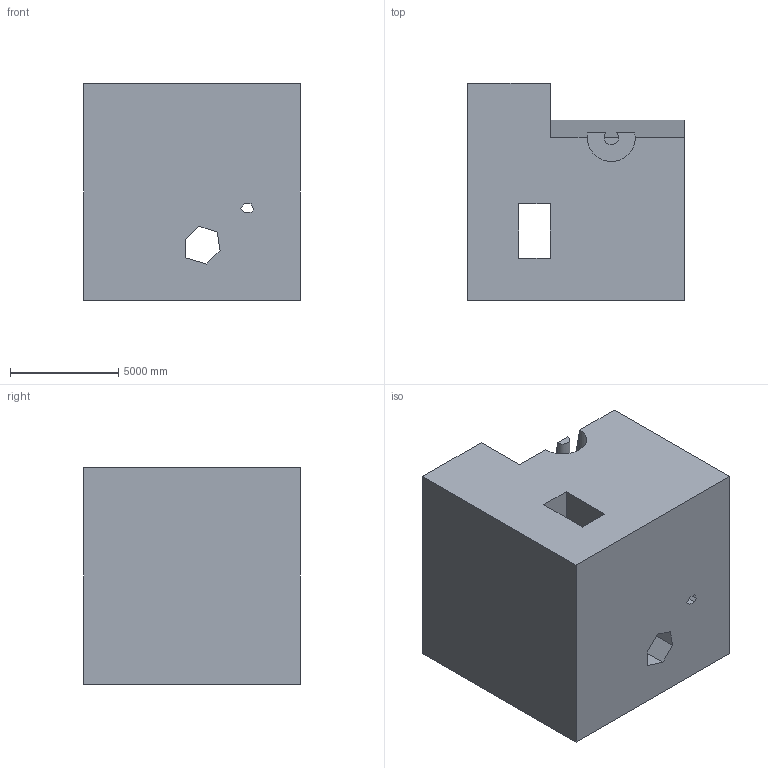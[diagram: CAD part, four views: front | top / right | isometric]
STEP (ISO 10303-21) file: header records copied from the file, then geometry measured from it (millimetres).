
FILE_DESCRIPTION (( 'STEP AP203' ), '1' );
FILE_NAME ('57.STEP', '2022-09-02T13:53:56', ( 'user' ), ( '' ), 'SwSTEP 2.0', 'SolidWorks 2021', '' );
FILE_SCHEMA (( 'CONFIG_CONTROL_DESIGN' ));
Length unit declared in the file: centimetre
Products named in the file (1): 57
Bounding box: 10000 x 10000 x 10000 mm (x, y, z)
Volume: 808183140438.3 mm3; surface area: 711766558.6 mm2
Topology: 1 solids, 1 shells, 38 faces, 101 edges, 66 vertices
Faces by surface type: plane 32, cylinder 6
Entity records: 1250 total; most frequent: CARTESIAN_POINT 218, ORIENTED_EDGE 202, DIRECTION 183, EDGE_CURVE 101, VECTOR 89, LINE 89, VERTEX_POINT 66, AXIS2_PLACEMENT_3D 47
